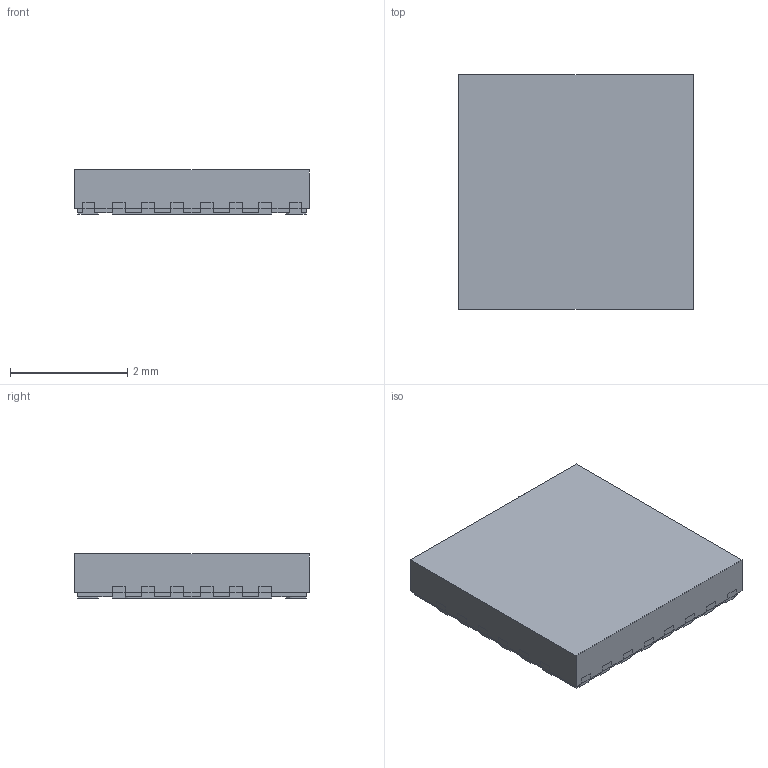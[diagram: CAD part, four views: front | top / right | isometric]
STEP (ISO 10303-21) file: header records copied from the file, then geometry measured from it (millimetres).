
FILE_DESCRIPTION (( 'STEP AP214' ), '1' );
FILE_NAME ('ES24-Wettable.STEP', '2018-09-27T18:35:36', ( '' ), ( '' ), 'SwSTEP 2.0', 'SolidWorks 2017', '' );
FILE_SCHEMA (( 'AUTOMOTIVE_DESIGN' ));
Length unit declared in the file: millimetre
Products named in the file (1): ES24-Wettable
Bounding box: 4 x 4 x 0.75 mm (x, y, z)
Volume: 11.8 mm3; surface area: 44.5 mm2
Topology: 1 solids, 1 shells, 332 faces, 886 edges, 557 vertices
Faces by surface type: plane 288, cylinder 44
Entity records: 10830 total; most frequent: CARTESIAN_POINT 1776, ORIENTED_EDGE 1772, DIRECTION 1640, EDGE_CURVE 886, LINE 798, VECTOR 798, VERTEX_POINT 557, AXIS2_PLACEMENT_3D 421
